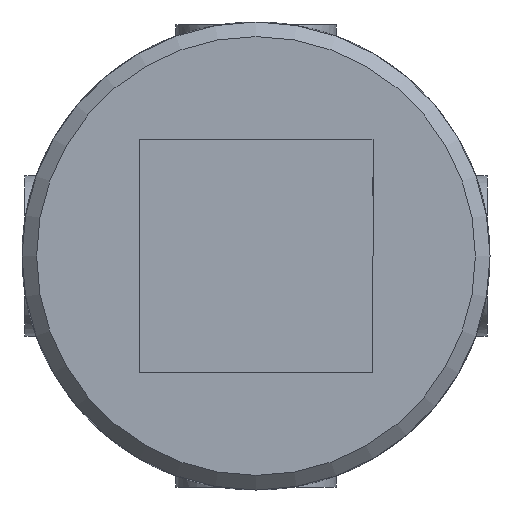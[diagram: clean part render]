
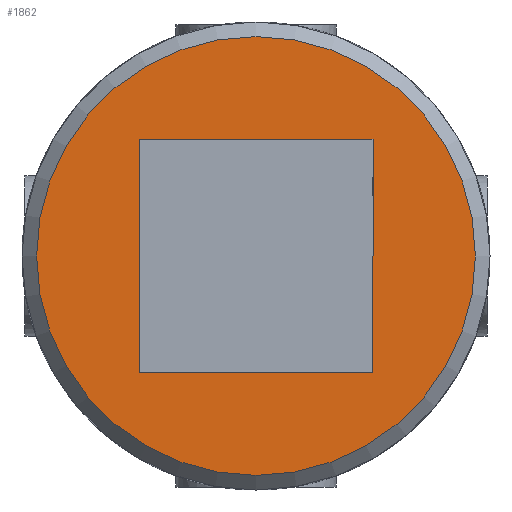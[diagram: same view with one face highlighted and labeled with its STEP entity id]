
A CAD part, front view. The second image highlights one B-rep face of the part: STEP entity #1862.
In plain terms, the highlighted planar face has unit normal (0, -1, 0).
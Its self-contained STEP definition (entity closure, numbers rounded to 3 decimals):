
#112=LINE('',#3498,#176);
#116=LINE('',#3521,#180);
#122=LINE('',#3559,#186);
#125=LINE('',#3579,#189);
#176=VECTOR('',#2439,16.);
#180=VECTOR('',#2447,16.);
#186=VECTOR('',#2455,16.);
#189=VECTOR('',#2462,16.);
#240=PLANE('',#2058);
#409=FACE_BOUND('',#658,.T.);
#505=FACE_OUTER_BOUND('',#657,.T.);
#657=EDGE_LOOP('',(#1619));
#658=EDGE_LOOP('',(#1620,#1621,#1622,#1623));
#762=CIRCLE('',#2056,15.);
#899=VERTEX_POINT('',#3495);
#900=VERTEX_POINT('',#3497);
#906=VERTEX_POINT('',#3520);
#915=VERTEX_POINT('',#3557);
#922=VERTEX_POINT('',#3626);
#1127=EDGE_CURVE('',#900,#899,#112,.T.);
#1134=EDGE_CURVE('',#906,#900,#116,.T.);
#1144=EDGE_CURVE('',#899,#915,#122,.T.);
#1150=EDGE_CURVE('',#915,#906,#125,.T.);
#1161=EDGE_CURVE('',#922,#922,#762,.T.);
#1619=ORIENTED_EDGE('',*,*,#1161,.F.);
#1620=ORIENTED_EDGE('',*,*,#1127,.T.);
#1621=ORIENTED_EDGE('',*,*,#1144,.T.);
#1622=ORIENTED_EDGE('',*,*,#1150,.T.);
#1623=ORIENTED_EDGE('',*,*,#1134,.T.);
#1862=ADVANCED_FACE('',(#505,#409),#240,.F.);
#2056=AXIS2_PLACEMENT_3D('',#3627,#2491,#2492);
#2058=AXIS2_PLACEMENT_3D('',#3839,#2499,#2500);
#2439=DIRECTION('',(0.,0.,-1.));
#2447=DIRECTION('',(1.,0.,0.));
#2455=DIRECTION('',(-1.,0.,0.));
#2462=DIRECTION('',(0.,0.,1.));
#2491=DIRECTION('center_axis',(0.,1.,0.));
#2492=DIRECTION('ref_axis',(1.,0.,0.));
#2499=DIRECTION('center_axis',(0.,1.,0.));
#2500=DIRECTION('ref_axis',(0.,0.,1.));
#3495=CARTESIAN_POINT('',(8.,-42.,-8.));
#3497=CARTESIAN_POINT('',(8.,-42.,8.));
#3498=CARTESIAN_POINT('',(8.,-42.,4.));
#3520=CARTESIAN_POINT('',(-8.,-42.,8.));
#3521=CARTESIAN_POINT('',(-4.,-42.,8.));
#3557=CARTESIAN_POINT('',(-8.,-42.,-8.));
#3559=CARTESIAN_POINT('',(4.,-42.,-8.));
#3579=CARTESIAN_POINT('',(-8.,-42.,-4.));
#3626=CARTESIAN_POINT('',(-15.,-42.,0.));
#3627=CARTESIAN_POINT('Origin',(0.,-42.,0.));
#3839=CARTESIAN_POINT('Origin',(0.,-42.,0.));
